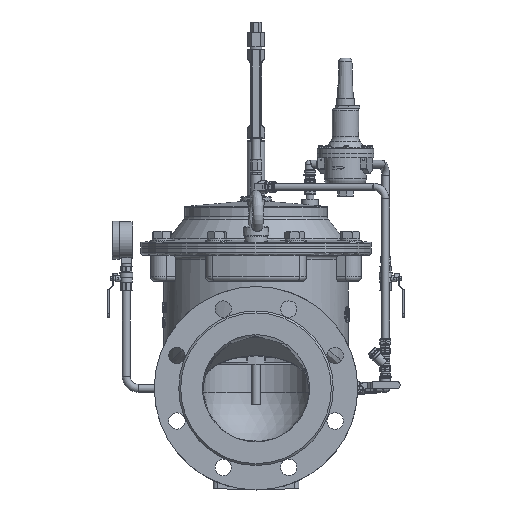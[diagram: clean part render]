
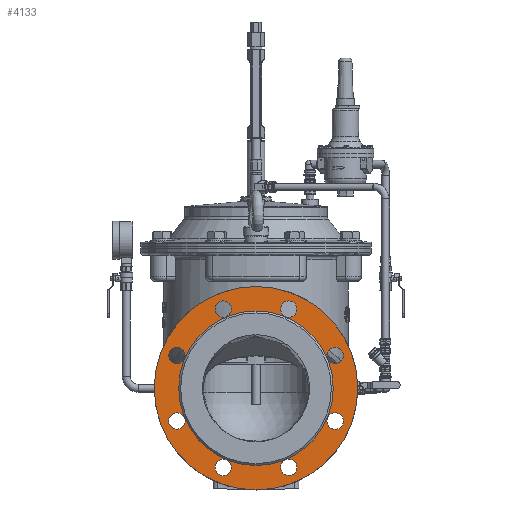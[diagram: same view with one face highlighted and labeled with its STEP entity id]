
A CAD part, left-side view. The second image highlights one B-rep face of the part: STEP entity #4133.
In plain terms, the highlighted planar face has unit normal (-1, 0, 0).
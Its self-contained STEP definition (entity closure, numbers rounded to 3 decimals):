
#4133=ADVANCED_FACE('',(#17171,#17173,#17175,#17177,#17179,#17181,#17183,#17185,
#17187,#17189),#17191,.F.);
#17171=FACE_BOUND('',#17172,.T.);
#17172=EDGE_LOOP('',(#41184));
#17173=FACE_BOUND('',#17174,.T.);
#17174=EDGE_LOOP('',(#41185));
#17175=FACE_BOUND('',#17176,.T.);
#17176=EDGE_LOOP('',(#41186));
#17177=FACE_BOUND('',#17178,.T.);
#17178=EDGE_LOOP('',(#41187));
#17179=FACE_BOUND('',#17180,.T.);
#17180=EDGE_LOOP('',(#41188));
#17181=FACE_BOUND('',#17182,.T.);
#17182=EDGE_LOOP('',(#41189));
#17183=FACE_BOUND('',#17184,.T.);
#17184=EDGE_LOOP('',(#41190));
#17185=FACE_BOUND('',#17186,.T.);
#17186=EDGE_LOOP('',(#41191));
#17187=FACE_BOUND('',#17188,.T.);
#17188=EDGE_LOOP('',(#41192));
#17189=FACE_BOUND('',#17190,.T.);
#17190=EDGE_LOOP('',(#41193));
#17191=PLANE('',#17192);
#17192=AXIS2_PLACEMENT_3D('',#17193,#17194,#17195);
#17193=CARTESIAN_POINT('',(-237.286,0.,0.));
#17194=DIRECTION('',(1.,0.,0.));
#17195=DIRECTION('',(0.,1.,0.));
#41184=ORIENTED_EDGE('',*,*,#48836,.F.);
#41185=ORIENTED_EDGE('',*,*,#48843,.T.);
#41186=ORIENTED_EDGE('',*,*,#48844,.T.);
#41187=ORIENTED_EDGE('',*,*,#48845,.T.);
#41188=ORIENTED_EDGE('',*,*,#48846,.T.);
#41189=ORIENTED_EDGE('',*,*,#48847,.T.);
#41190=ORIENTED_EDGE('',*,*,#48848,.T.);
#41191=ORIENTED_EDGE('',*,*,#48849,.T.);
#41192=ORIENTED_EDGE('',*,*,#49077,.F.);
#41193=ORIENTED_EDGE('',*,*,#48850,.T.);
#48836=EDGE_CURVE('',#53374,#53374,#53375,.T.);
#48843=EDGE_CURVE('',#53384,#53384,#53385,.T.);
#48844=EDGE_CURVE('',#53386,#53386,#53387,.T.);
#48845=EDGE_CURVE('',#53388,#53388,#53389,.T.);
#48846=EDGE_CURVE('',#53390,#53390,#53391,.T.);
#48847=EDGE_CURVE('',#53392,#53392,#53393,.T.);
#48848=EDGE_CURVE('',#53394,#53394,#53395,.T.);
#48849=EDGE_CURVE('',#53396,#53396,#53397,.T.);
#48850=EDGE_CURVE('',#53398,#53398,#53399,.T.);
#49077=EDGE_CURVE('',#53799,#53799,#53800,.T.);
#53374=VERTEX_POINT('',#68202);
#53375=CIRCLE('',#68203,142.5);
#53384=VERTEX_POINT('',#68229);
#53385=CIRCLE('',#68230,11.5);
#53386=VERTEX_POINT('',#68234);
#53387=CIRCLE('',#68235,11.5);
#53388=VERTEX_POINT('',#68239);
#53389=CIRCLE('',#68240,11.5);
#53390=VERTEX_POINT('',#68244);
#53391=CIRCLE('',#68245,11.5);
#53392=VERTEX_POINT('',#68249);
#53393=CIRCLE('',#68250,11.5);
#53394=VERTEX_POINT('',#68254);
#53395=CIRCLE('',#68255,11.5);
#53396=VERTEX_POINT('',#68259);
#53397=CIRCLE('',#68260,11.5);
#53398=VERTEX_POINT('',#68264);
#53399=CIRCLE('',#68265,11.5);
#53799=VERTEX_POINT('',#73171);
#53800=CIRCLE('',#73172,108.214);
#68202=CARTESIAN_POINT('',(-237.286,142.5,0.));
#68203=AXIS2_PLACEMENT_3D('',#68204,#68205,#68206);
#68204=CARTESIAN_POINT('',(-237.286,0.,0.));
#68205=DIRECTION('',(1.,0.,0.));
#68206=DIRECTION('',(0.,1.,0.));
#68229=CARTESIAN_POINT('',(-237.286,54.054,118.997));
#68230=AXIS2_PLACEMENT_3D('',#68231,#68232,#68233);
#68231=CARTESIAN_POINT('',(-237.286,45.922,110.866));
#68232=DIRECTION('',(1.,0.,0.));
#68233=DIRECTION('',(0.,0.707,0.707));
#68234=CARTESIAN_POINT('',(-237.286,-45.922,122.366));
#68235=AXIS2_PLACEMENT_3D('',#68236,#68237,#68238);
#68236=CARTESIAN_POINT('',(-237.286,-45.922,110.866));
#68237=DIRECTION('',(1.,0.,0.));
#68238=DIRECTION('',(0.,0.,1.));
#68239=CARTESIAN_POINT('',(-237.286,-118.997,54.054));
#68240=AXIS2_PLACEMENT_3D('',#68241,#68242,#68243);
#68241=CARTESIAN_POINT('',(-237.286,-110.866,45.922));
#68242=DIRECTION('',(1.,0.,0.));
#68243=DIRECTION('',(0.,-0.707,0.707));
#68244=CARTESIAN_POINT('',(-237.286,-122.366,-45.922));
#68245=AXIS2_PLACEMENT_3D('',#68246,#68247,#68248);
#68246=CARTESIAN_POINT('',(-237.286,-110.866,-45.922));
#68247=DIRECTION('',(1.,0.,0.));
#68248=DIRECTION('',(0.,-1.,0.));
#68249=CARTESIAN_POINT('',(-237.286,-54.054,-118.997));
#68250=AXIS2_PLACEMENT_3D('',#68251,#68252,#68253);
#68251=CARTESIAN_POINT('',(-237.286,-45.922,-110.866));
#68252=DIRECTION('',(1.,0.,0.));
#68253=DIRECTION('',(0.,-0.707,-0.707));
#68254=CARTESIAN_POINT('',(-237.286,45.922,-122.366));
#68255=AXIS2_PLACEMENT_3D('',#68256,#68257,#68258);
#68256=CARTESIAN_POINT('',(-237.286,45.922,-110.866));
#68257=DIRECTION('',(1.,0.,0.));
#68258=DIRECTION('',(0.,0.,-1.));
#68259=CARTESIAN_POINT('',(-237.286,118.997,-54.054));
#68260=AXIS2_PLACEMENT_3D('',#68261,#68262,#68263);
#68261=CARTESIAN_POINT('',(-237.286,110.866,-45.922));
#68262=DIRECTION('',(1.,0.,0.));
#68263=DIRECTION('',(0.,0.707,-0.707));
#68264=CARTESIAN_POINT('',(-237.286,122.366,45.922));
#68265=AXIS2_PLACEMENT_3D('',#68266,#68267,#68268);
#68266=CARTESIAN_POINT('',(-237.286,110.866,45.922));
#68267=DIRECTION('',(1.,0.,0.));
#68268=DIRECTION('',(0.,1.,0.));
#73171=CARTESIAN_POINT('',(-237.286,-108.214,0.));
#73172=AXIS2_PLACEMENT_3D('',#73173,#73174,#73175);
#73173=CARTESIAN_POINT('',(-237.286,0.,0.));
#73174=DIRECTION('',(-1.,0.,0.));
#73175=DIRECTION('',(0.,-1.,0.));
